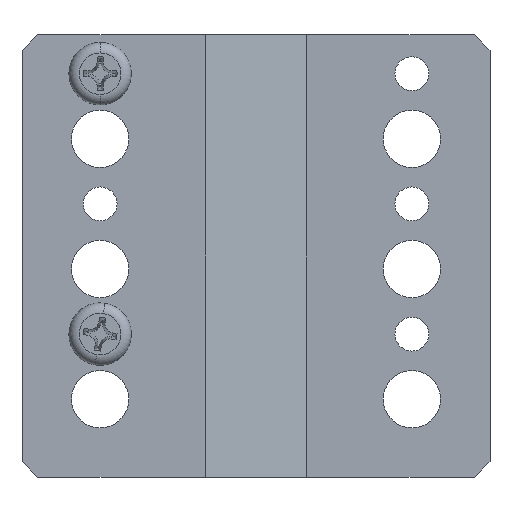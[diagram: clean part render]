
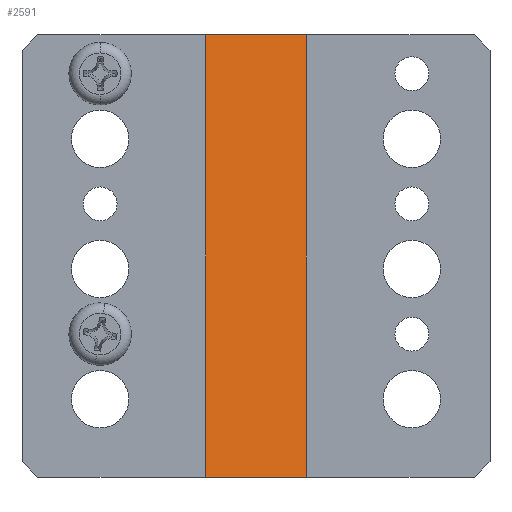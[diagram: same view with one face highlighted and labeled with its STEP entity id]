
A CAD part, left-side view. The second image highlights one B-rep face of the part: STEP entity #2591.
In plain terms, the highlighted planar face has unit normal (-0.968, -0.25, 0).
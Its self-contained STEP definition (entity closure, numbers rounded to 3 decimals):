
#20 = ORIENTED_EDGE ( 'NONE', *, *, #651, .T. ) ;
#302 = PLANE ( 'NONE',  #1518 ) ;
#306 = EDGE_CURVE ( 'NONE', #2383, #1474, #743, .T. ) ;
#335 = LINE ( 'NONE', #1767, #2075 ) ;
#371 = ORIENTED_EDGE ( 'NONE', *, *, #1128, .T. ) ;
#448 = EDGE_LOOP ( 'NONE', ( #20, #371, #673, #468, #1637, #663, #2324, #1683 ) ) ;
#468 = ORIENTED_EDGE ( 'NONE', *, *, #2119, .F. ) ;
#477 = DIRECTION ( 'NONE',  ( 0.968, 0.25, 0. ) ) ;
#613 = CARTESIAN_POINT ( 'NONE',  ( 1.905, 190.234, 42.5 ) ) ;
#645 = CARTESIAN_POINT ( 'NONE',  ( 2.092, 189.508, 42.5 ) ) ;
#651 = EDGE_CURVE ( 'NONE', #2562, #2131, #1054, .T. ) ;
#663 = ORIENTED_EDGE ( 'NONE', *, *, #306, .T. ) ;
#672 = DIRECTION ( 'NONE',  ( 0.25, -0.968, 0. ) ) ;
#673 = ORIENTED_EDGE ( 'NONE', *, *, #1914, .T. ) ;
#730 = VECTOR ( 'NONE', #672, 1000. ) ;
#743 = LINE ( 'NONE', #2224, #1398 ) ;
#747 = LINE ( 'NONE', #2388, #2267 ) ;
#794 = CARTESIAN_POINT ( 'NONE',  ( 2., 189.865, 42.5 ) ) ;
#892 = EDGE_CURVE ( 'NONE', #1474, #1691, #1986, .T. ) ;
#946 = VERTEX_POINT ( 'NONE', #2407 ) ;
#1054 = LINE ( 'NONE', #645, #1773 ) ;
#1096 = FACE_OUTER_BOUND ( 'NONE', #448, .T. ) ;
#1128 = EDGE_CURVE ( 'NONE', #2131, #2014, #1619, .T. ) ;
#1202 = DIRECTION ( 'NONE',  ( 0.25, -0.968, 0. ) ) ;
#1285 = LINE ( 'NONE', #1880, #1722 ) ;
#1357 = CARTESIAN_POINT ( 'NONE',  ( 1.905, 190.234, -42.5 ) ) ;
#1397 = EDGE_CURVE ( 'NONE', #946, #2383, #747, .T. ) ;
#1398 = VECTOR ( 'NONE', #1202, 1000. ) ;
#1444 = VECTOR ( 'NONE', #1586, 1000. ) ;
#1452 = CARTESIAN_POINT ( 'NONE',  ( 2., 189.865, -42.5 ) ) ;
#1456 = VECTOR ( 'NONE', #2078, 1000. ) ;
#1474 = VERTEX_POINT ( 'NONE', #1452 ) ;
#1518 = AXIS2_PLACEMENT_3D ( 'NONE', #1687, #477, #1913 ) ;
#1546 = DIRECTION ( 'NONE',  ( 0.25, -0.968, 0. ) ) ;
#1586 = DIRECTION ( 'NONE',  ( 0., 0., 1. ) ) ;
#1619 = LINE ( 'NONE', #2461, #1456 ) ;
#1637 = ORIENTED_EDGE ( 'NONE', *, *, #1397, .T. ) ;
#1656 = DIRECTION ( 'NONE',  ( 0., 0., -1. ) ) ;
#1683 = ORIENTED_EDGE ( 'NONE', *, *, #2280, .F. ) ;
#1687 = CARTESIAN_POINT ( 'NONE',  ( 2.092, 189.508, 0. ) ) ;
#1691 = VERTEX_POINT ( 'NONE', #794 ) ;
#1722 = VECTOR ( 'NONE', #1656, 1000. ) ;
#1767 = CARTESIAN_POINT ( 'NONE',  ( 2.092, 189.508, -42.5 ) ) ;
#1773 = VECTOR ( 'NONE', #2245, 1000. ) ;
#1793 = VERTEX_POINT ( 'NONE', #2358 ) ;
#1880 = CARTESIAN_POINT ( 'NONE',  ( -3., 209.23, 0. ) ) ;
#1913 = DIRECTION ( 'NONE',  ( 0., 0., -1. ) ) ;
#1914 = EDGE_CURVE ( 'NONE', #2014, #1793, #1285, .T. ) ;
#1930 = CARTESIAN_POINT ( 'NONE',  ( 2.092, 189.508, 42.5 ) ) ;
#1986 = LINE ( 'NONE', #2581, #1444 ) ;
#2014 = VERTEX_POINT ( 'NONE', #2583 ) ;
#2075 = VECTOR ( 'NONE', #2205, 1000. ) ;
#2078 = DIRECTION ( 'NONE',  ( -0.25, 0.968, 0. ) ) ;
#2119 = EDGE_CURVE ( 'NONE', #946, #1793, #335, .T. ) ;
#2131 = VERTEX_POINT ( 'NONE', #2598 ) ;
#2137 = LINE ( 'NONE', #1930, #730 ) ;
#2205 = DIRECTION ( 'NONE',  ( -0.25, 0.968, 0. ) ) ;
#2224 = CARTESIAN_POINT ( 'NONE',  ( 1.905, 190.234, -42.5 ) ) ;
#2245 = DIRECTION ( 'NONE',  ( -0.25, 0.968, 0. ) ) ;
#2267 = VECTOR ( 'NONE', #1546, 1000. ) ;
#2280 = EDGE_CURVE ( 'NONE', #2562, #1691, #2137, .T. ) ;
#2324 = ORIENTED_EDGE ( 'NONE', *, *, #892, .T. ) ;
#2358 = CARTESIAN_POINT ( 'NONE',  ( -3., 209.23, -42.5 ) ) ;
#2383 = VERTEX_POINT ( 'NONE', #1357 ) ;
#2388 = CARTESIAN_POINT ( 'NONE',  ( 2.092, 189.508, -42.5 ) ) ;
#2407 = CARTESIAN_POINT ( 'NONE',  ( -2.809, 208.492, -42.5 ) ) ;
#2461 = CARTESIAN_POINT ( 'NONE',  ( -2.809, 208.492, 42.5 ) ) ;
#2562 = VERTEX_POINT ( 'NONE', #613 ) ;
#2581 = CARTESIAN_POINT ( 'NONE',  ( 2., 189.865, 0. ) ) ;
#2583 = CARTESIAN_POINT ( 'NONE',  ( -3., 209.23, 42.5 ) ) ;
#2591 = ADVANCED_FACE ( 'NONE', ( #1096 ), #302, .F. ) ;
#2598 = CARTESIAN_POINT ( 'NONE',  ( -2.809, 208.492, 42.5 ) ) ;
